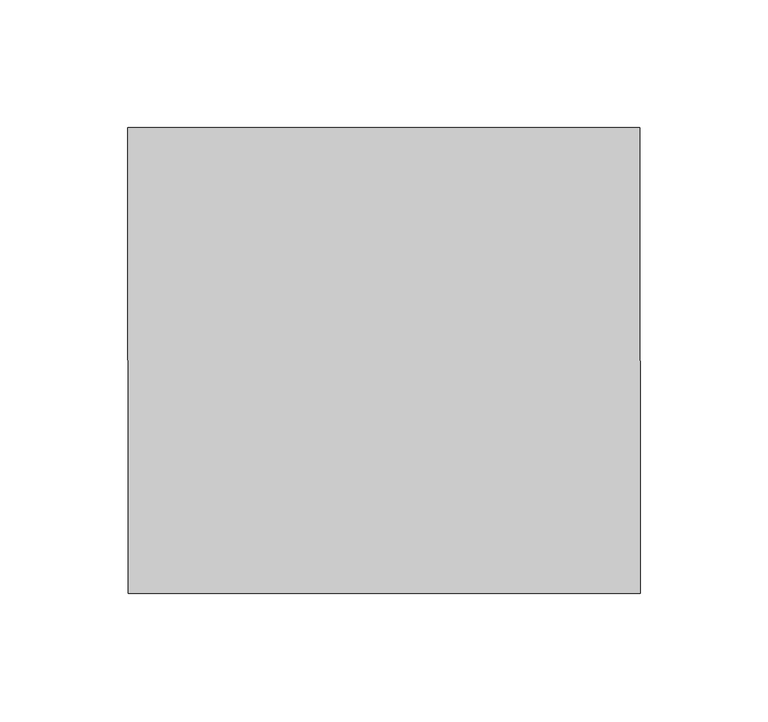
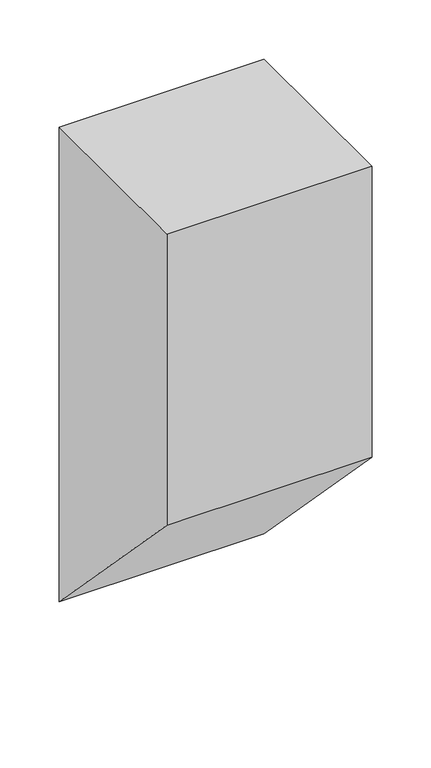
"""IFC4 building model written with IfcOpenShell, lengths in millimetres: beam geometry, appoggiTravi35 : appoggiTravi."""

from ifc_helpers import new_model, si_unit, frame, origin, place, context, project, spatial, polyline, outline, extrude, source, transform, mapped, element, save


def beam_4fc44dff(model_context):
    return source(origin(), model_context, "Body", "SweptSolid", [
        extrude(outline(polyline([(29596.1224581, -4880.0), (29596.1224581, -4580.0), (29778.1197423, -4580.0), (29778.1197423, -5069.0), (29596.1224581, -4880.0)])), frame((16842.3599913, 0.0, 0.0), z_axis=(1.0, 0.0, 0.0), x_axis=(0.0, 1.0, 0.0)), (0.0, 0.0, 1.0), 200.0),
    ])


if __name__ == "__main__":
    model = new_model("IFC4")
    model_context = context("Model", 3, world=origin())
    ifc_project = project(units=[si_unit("LENGTHUNIT", "METRE", prefix="MILLI")], contexts=[model_context])
    site = spatial("IfcSite", under=ifc_project)
    building = spatial("IfcBuilding", under=site)
    placement = place(None, origin())
    beam_shape = beam_4fc44dff(model_context)
    element("IfcBeam", 1, ObjectType="appoggiTravi35 : appoggiTravi", at=placement, inside=building, context=model_context, shape_type="MappedRepresentation", body=[
        mapped(beam_shape, transform((0.0, 0.0, 0.0), x_axis=(1.0, 0.0, 0.0), y_axis=(0.0, 1.0, 0.0), z_axis=(0.0, 0.0, 1.0))),
    ])
    save(model, "model.ifc")
